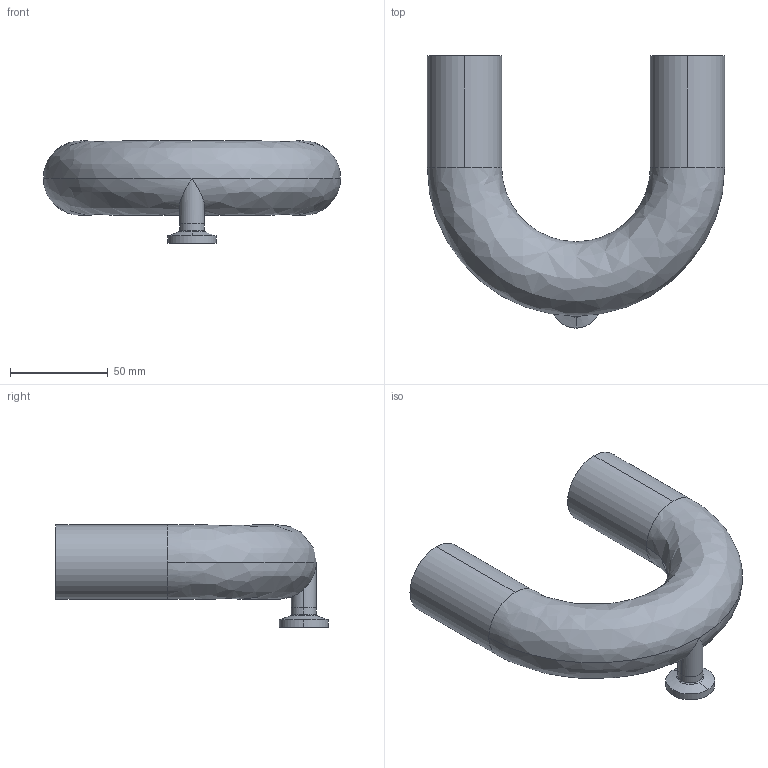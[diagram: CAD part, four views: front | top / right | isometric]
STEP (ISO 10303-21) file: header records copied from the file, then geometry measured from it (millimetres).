
FILE_DESCRIPTION (( 'STEP AP214' ), '1' );
FILE_NAME ('TE2USWWC6L1.5x.5-...STEP', '2016-05-25T05:40:26', ( 'eran' ), ( '' ), 'SwSTEP 2.0', 'SolidWorks 2016', '' );
FILE_SCHEMA (( 'AUTOMOTIVE_DESIGN' ));
Length unit declared in the file: millimetre
Products named in the file (1): TE2USWWC6L1.5x.5-..
Bounding box: 152.4 x 139.5 x 52.35 mm (x, y, z)
Volume: 57830.1 mm3; surface area: 69961.2 mm2
Topology: 2 solids, 2 shells, 42 faces, 102 edges, 64 vertices
Faces by surface type: cylinder 20, bspline 12, plane 6, cone 4
Entity records: 1731 total; most frequent: CARTESIAN_POINT 699, DIRECTION 222, ORIENTED_EDGE 204, EDGE_CURVE 102, AXIS2_PLACEMENT_3D 99, CIRCLE 68, VERTEX_POINT 64, EDGE_LOOP 48
